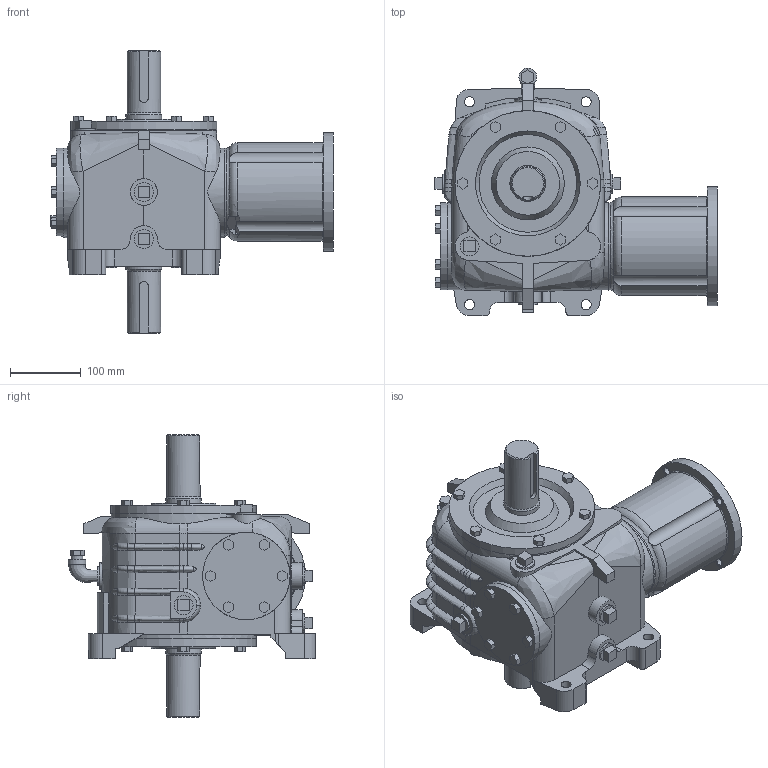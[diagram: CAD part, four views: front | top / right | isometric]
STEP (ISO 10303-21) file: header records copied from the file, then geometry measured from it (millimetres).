
FILE_DESCRIPTION(/* description */ ('Unknown'),/* implementation_level */ '2;1');
FILE_NAME(/* name */ 'HV-35-7C-BNG010',/* time_stamp */ '2024-11-21T09:51:11-05:00',/* author */ ('Unknown'),/* organization */ ('Unknown'),/* preprocessor_version */ 'ST-DEVELOPER v19.4',/* originating_system */ 'Solid Edge',/* authorisation */ 'Unknown');
FILE_SCHEMA (('AUTOMOTIVE_DESIGN {1 0 10303 214 3 1 1}'));
Length unit declared in the file: millimetre
Products named in the file (5): HV-35-7C-BNG010; 35-5-CP; 35-OUTS; 35-MTR45-56C; 35-WCAP
Assembly tree (5 placements, depth 2):
  HV-35-7C-BNG010
    35-5-CP
    35-OUTS  x2
    35-MTR45-56C
    35-WCAP
Bounding box: 400.09 x 350.73 x 400.05 mm (x, y, z)
Volume: 10822677.7 mm3; surface area: 816606.7 mm2
Topology: 5 solids, 5 shells, 604 faces, 1548 edges, 1023 vertices
Faces by surface type: plane 372, cylinder 109, bspline 87, cone 19, torus 17
Full cylindrical faces by diameter (mm): 0.254 x9, 7.62 x1, 10.319 x4, 12.7 x7, 14.287 x10, 15.081 x4, 25.189 x1, 30.15 x1, 38.1 x2, 47.612 x2, 50.8 x2, 63.5 x1, 65.024 x1, 101.6 x1, 102.108 x1, 114.338 x1, 123.825 x3, 123.952 x1, 168.148 x1, 206.375 x4
Entity records: 20949 total; most frequent: CARTESIAN_POINT 7149, ORIENTED_EDGE 2622, DIRECTION 2241, EDGE_CURVE 1311, VERTEX_POINT 904, AXIS2_PLACEMENT_3D 755, LINE 731, VECTOR 731
